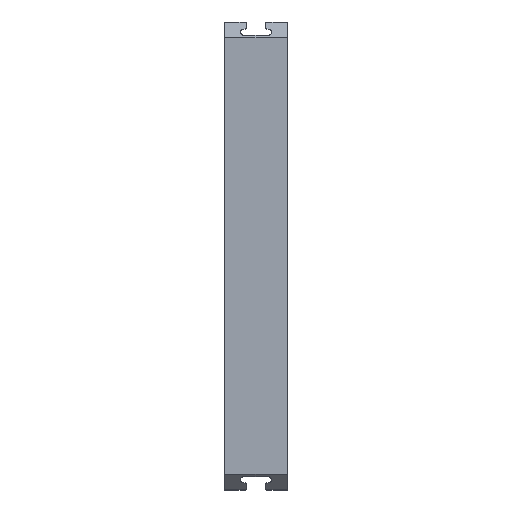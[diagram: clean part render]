
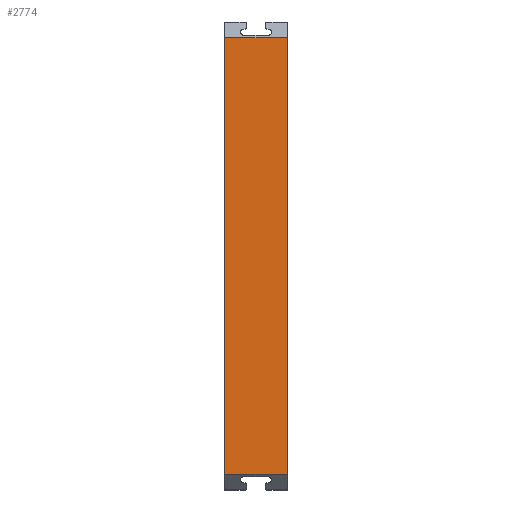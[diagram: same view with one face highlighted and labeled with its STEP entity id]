
A CAD part, left-side view. The second image highlights one B-rep face of the part: STEP entity #2774.
In plain terms, the highlighted planar face has unit normal (-1, 0, 0).
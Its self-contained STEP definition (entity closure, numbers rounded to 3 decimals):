
#104 = PLANE ( 'NONE',  #2751 ) ;
#371 = DIRECTION ( 'NONE',  ( 0., 1., 0. ) ) ;
#372 = CARTESIAN_POINT ( 'NONE',  ( -80., 8., 64. ) ) ;
#574 = DIRECTION ( 'NONE',  ( 0., 0., -1. ) ) ;
#662 = EDGE_CURVE ( 'NONE', #2689, #731, #2743, .T. ) ;
#718 = CARTESIAN_POINT ( 'NONE',  ( -80., -8., -48. ) ) ;
#731 = VERTEX_POINT ( 'NONE', #718 ) ;
#762 = VERTEX_POINT ( 'NONE', #1668 ) ;
#898 = VECTOR ( 'NONE', #574, 1000. ) ;
#1007 = ORIENTED_EDGE ( 'NONE', *, *, #1855, .T. ) ;
#1023 = CARTESIAN_POINT ( 'NONE',  ( -80., -8., 64. ) ) ;
#1033 = LINE ( 'NONE', #372, #898 ) ;
#1119 = CARTESIAN_POINT ( 'NONE',  ( -80., 8., 64. ) ) ;
#1153 = LINE ( 'NONE', #2827, #2280 ) ;
#1193 = ORIENTED_EDGE ( 'NONE', *, *, #1948, .T. ) ;
#1230 = DIRECTION ( 'NONE',  ( 0., -1., 0. ) ) ;
#1323 = ORIENTED_EDGE ( 'NONE', *, *, #662, .T. ) ;
#1379 = DIRECTION ( 'NONE',  ( 0., -1., 0. ) ) ;
#1389 = LINE ( 'NONE', #2170, #2528 ) ;
#1398 = EDGE_LOOP ( 'NONE', ( #1007, #2353, #1193, #1323 ) ) ;
#1442 = VERTEX_POINT ( 'NONE', #1119 ) ;
#1531 = VECTOR ( 'NONE', #1379, 1000. ) ;
#1668 = CARTESIAN_POINT ( 'NONE',  ( -80., -8., 64. ) ) ;
#1855 = EDGE_CURVE ( 'NONE', #731, #762, #1153, .T. ) ;
#1948 = EDGE_CURVE ( 'NONE', #1442, #2689, #1033, .T. ) ;
#2048 = DIRECTION ( 'NONE',  ( 0., 0., 1. ) ) ;
#2170 = CARTESIAN_POINT ( 'NONE',  ( -80., -8., 64. ) ) ;
#2208 = CARTESIAN_POINT ( 'NONE',  ( -80., -8., -48. ) ) ;
#2280 = VECTOR ( 'NONE', #2048, 1000. ) ;
#2353 = ORIENTED_EDGE ( 'NONE', *, *, #2449, .T. ) ;
#2449 = EDGE_CURVE ( 'NONE', #762, #1442, #1389, .T. ) ;
#2528 = VECTOR ( 'NONE', #371, 1000. ) ;
#2592 = DIRECTION ( 'NONE',  ( -1., 0., 0. ) ) ;
#2689 = VERTEX_POINT ( 'NONE', #2726 ) ;
#2726 = CARTESIAN_POINT ( 'NONE',  ( -80., 8., -48. ) ) ;
#2743 = LINE ( 'NONE', #2208, #1531 ) ;
#2751 = AXIS2_PLACEMENT_3D ( 'NONE', #1023, #2592, #1230 ) ;
#2774 = ADVANCED_FACE ( 'NONE', ( #2903 ), #104, .T. ) ;
#2827 = CARTESIAN_POINT ( 'NONE',  ( -80., -8., 8. ) ) ;
#2903 = FACE_OUTER_BOUND ( 'NONE', #1398, .T. ) ;
